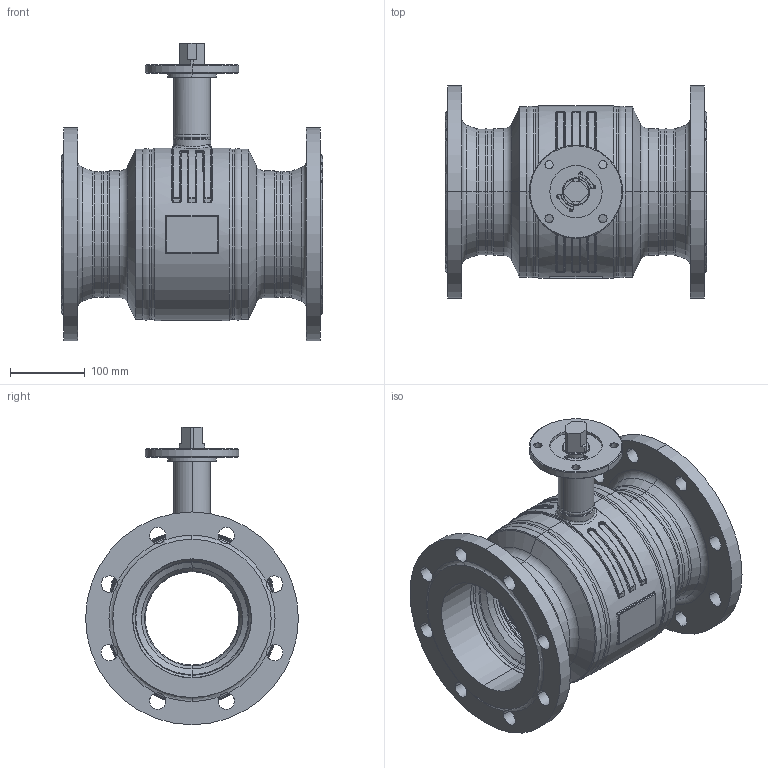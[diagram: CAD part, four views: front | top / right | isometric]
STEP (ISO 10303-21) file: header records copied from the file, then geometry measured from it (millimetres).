
FILE_DESCRIPTION((''),'2;1');
FILE_NAME('KHMO-F-R-H-150R125P01_SW0001','2025-04-23T09:43:05',('jeitlers'),('KLINGER'),'CREO PARAMETRIC BY PTC INC, 2023014','CREO PARAMETRIC BY PTC INC, 2023014','');
FILE_SCHEMA(('CONFIG_CONTROL_DESIGN'));
Length unit declared in the file: millimetre
Products named in the file (1): KHMO-F-R-H-150R125P01_SW0001
Bounding box: 350 x 285 x 398.5 mm (x, y, z)
Volume: 5138503 mm3; surface area: 1085188.6 mm2
Topology: 2 solids, 2 shells, 629 faces, 1541 edges, 916 vertices
Faces by surface type: cylinder 230, torus 140, plane 113, cone 86, bspline 52, sphere 8
Entity records: 31843 total; most frequent: CARTESIAN_POINT 16816, DIRECTION 3387, ORIENTED_EDGE 3066, EDGE_CURVE 1533, AXIS2_PLACEMENT_3D 1453, VERTEX_POINT 916, CIRCLE 876, EDGE_LOOP 697
